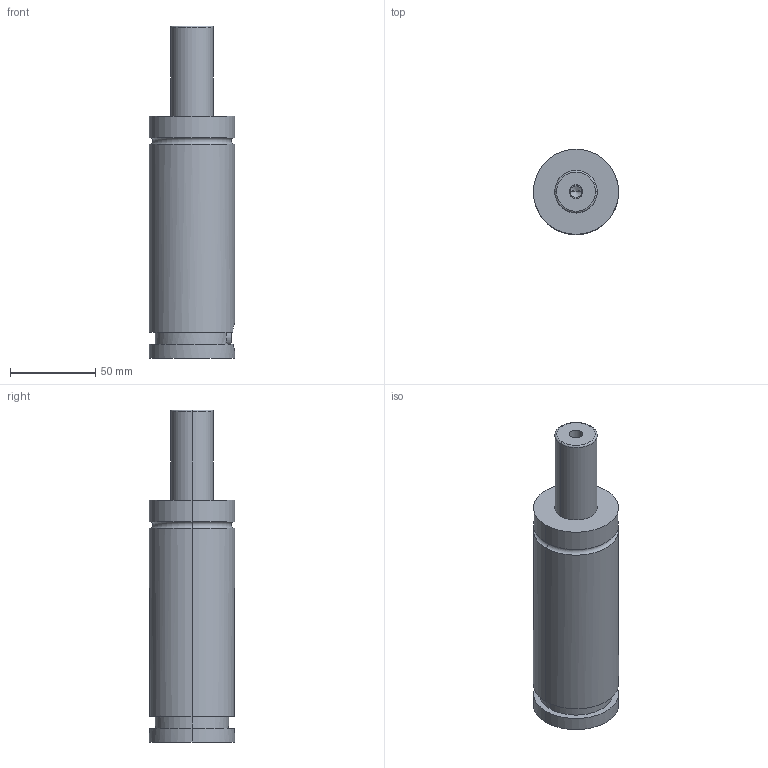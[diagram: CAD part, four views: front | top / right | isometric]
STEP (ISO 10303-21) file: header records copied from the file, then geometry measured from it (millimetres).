
FILE_DESCRIPTION(/* description */ (''),/* implementation_level */ '2;1');
FILE_NAME(/* name */ '3d_gse50-50_03856_r00.stp',/* time_stamp */ '2011-01-10T14:15:19+09:00',/* author */ ('MISUMI'),/* organization */ (''),/* preprocessor_version */ 'ST-DEVELOPER v11',/* originating_system */ 'UGS - NX 5.0',/* authorisation */ '');
FILE_SCHEMA (('CONFIG_CONTROL_DESIGN'));
Length unit declared in the file: millimetre
Products named in the file (1): 3d_gse50-50_03856_r00
Bounding box: 50 x 50 x 195 mm (x, y, z)
Volume: 297774.6 mm3; surface area: 32910.6 mm2
Topology: 1 solids, 1 shells, 57 faces, 125 edges, 79 vertices
Faces by surface type: cylinder 26, plane 21, cone 6, torus 4
Entity records: 1669 total; most frequent: DIRECTION 297, CARTESIAN_POINT 286, ORIENTED_EDGE 246, EDGE_CURVE 123, AXIS2_PLACEMENT_3D 122, VERTEX_POINT 79, EDGE_LOOP 68, CIRCLE 64
